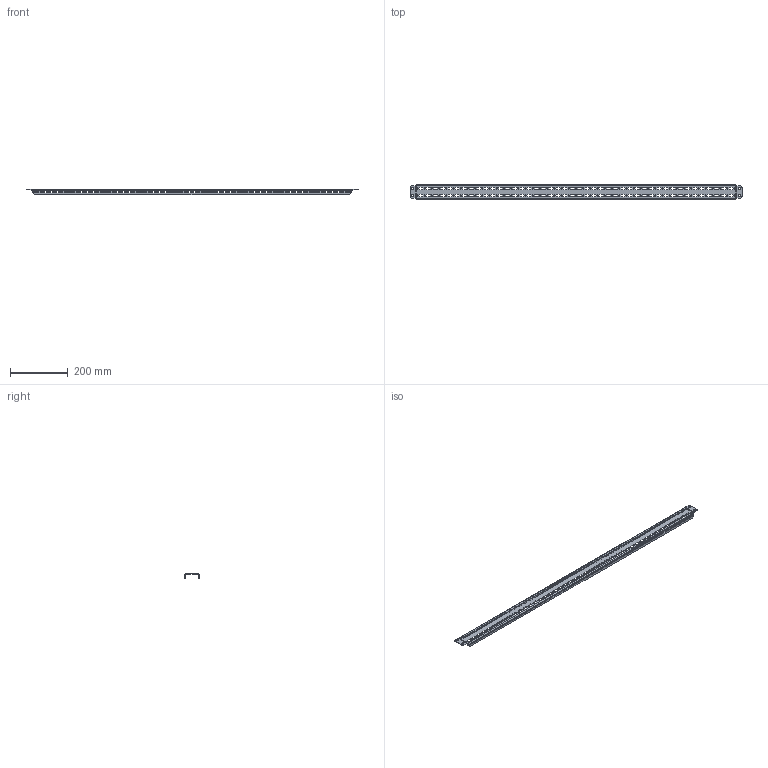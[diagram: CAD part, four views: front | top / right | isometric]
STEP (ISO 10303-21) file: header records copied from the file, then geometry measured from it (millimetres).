
FILE_DESCRIPTION (( 'STEP AP203' ), '1' );
FILE_NAME ('MRD 120.06 Ðåéêà ìîíòàæíàÿ.STEP', '2025-05-15T12:25:28', ( '' ), ( '' ), 'SwSTEP 2.0', 'SolidWorks 2019', '' );
FILE_SCHEMA (( 'CONFIG_CONTROL_DESIGN' ));
Products named in the file (1): MRD 120.06 Ðåéêà ìîíòàæíàÿ
Bounding box: 1152 x 49 x 19.03 mm (x, y, z)
Volume: 141327.2 mm3; surface area: 164771.2 mm2
Topology: 1 solids, 1 shells, 1846 faces, 5484 edges, 3640 vertices
Faces by surface type: plane 1454, cylinder 392
Entity records: 62745 total; most frequent: CARTESIAN_POINT 10971, ORIENTED_EDGE 10968, DIRECTION 9962, EDGE_CURVE 5484, LINE 4700, VECTOR 4700, VERTEX_POINT 3640, AXIS2_PLACEMENT_3D 2631
